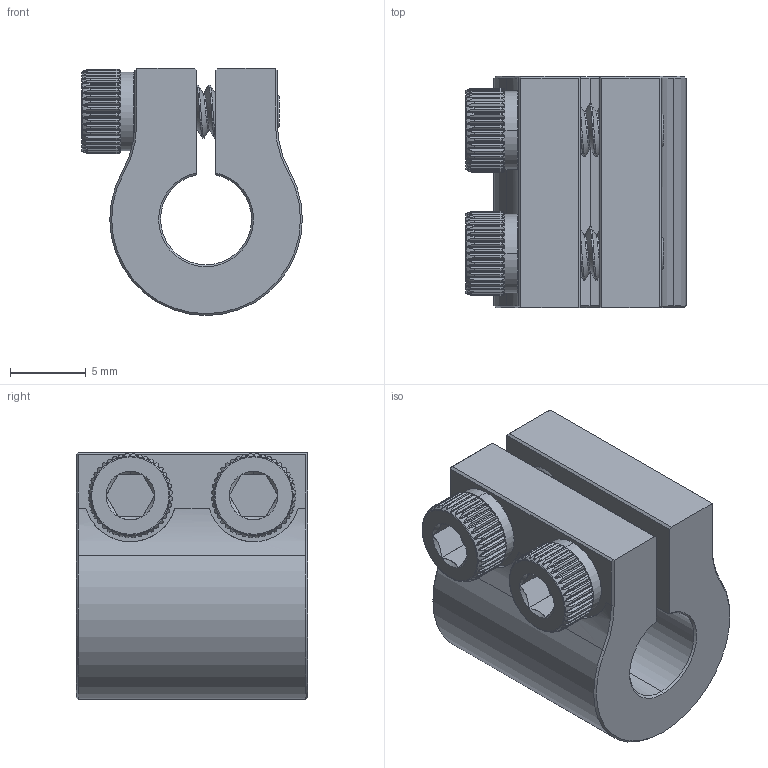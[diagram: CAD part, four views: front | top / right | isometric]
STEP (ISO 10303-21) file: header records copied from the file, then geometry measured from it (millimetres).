
FILE_DESCRIPTION (( 'STEP AP203' ), '1' );
FILE_NAME ('625090 assembly.STEP', '2017-01-18T20:20:01', ( '' ), ( '' ), 'SwSTEP 2.0', 'SolidWorks 2016', '' );
FILE_SCHEMA (( 'CONFIG_CONTROL_DESIGN' ));
Length unit declared in the file: inch
Products named in the file (3): 625090 assembly; 625090; 632110_90128A121
Assembly tree (3 placements, depth 2):
  625090 assembly
    625090
    632110_90128A121  x2
Bounding box: 14.55 x 15.24 x 16.29 mm (x, y, z)
Volume: 2104.6 mm3; surface area: 2180.1 mm2
Topology: 3 solids, 3 shells, 1856 faces, 4454 edges, 2606 vertices
Faces by surface type: bspline 892, cylinder 614, plane 280, torus 38, cone 32
Entity records: 44484 total; most frequent: CARTESIAN_POINT 25178, ORIENTED_EDGE 4716, DIRECTION 2936, EDGE_CURVE 2358, VERTEX_POINT 1387, AXIS2_PLACEMENT_3D 1208, B_SPLINE_CURVE_WITH_KNOTS 991, EDGE_LOOP 983
